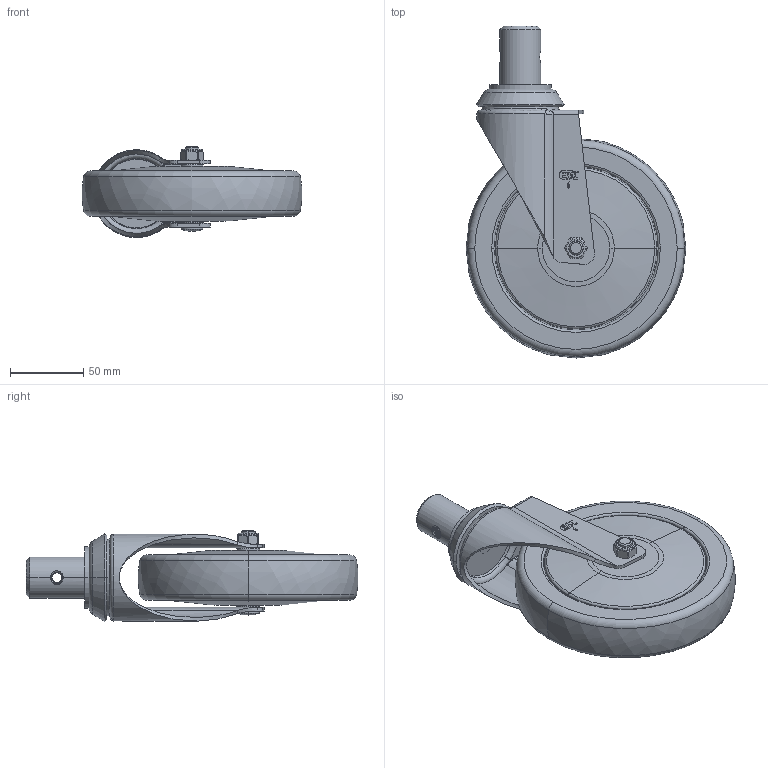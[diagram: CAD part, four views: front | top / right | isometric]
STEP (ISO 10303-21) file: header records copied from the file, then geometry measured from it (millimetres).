
FILE_DESCRIPTION((''),'2;1');
FILE_NAME('57256-576-77_ASM','2021-01-05T',('lenovo'),(''),'PRO/ENGINEER BY PARAMETRIC TECHNOLOGY CORPORATION, 2010280','PRO/ENGINEER BY PARAMETRIC TECHNOLOGY CORPORATION, 2010280','');
FILE_SCHEMA(('CONFIG_CONTROL_DESIGN'));
Length unit declared in the file: millimetre
Products named in the file (7): 5710-055; 5726-311; 5720-211; 576-77; 5710-020; 5710-031; 57256-576-77_ASM
Assembly tree (6 placements, depth 2):
  57256-576-77_ASM
    5710-055
    5726-311
    5720-211
    576-77
    5710-020
    5710-031
Bounding box: 149.8 x 226.4 x 62.25 mm (x, y, z)
Volume: 656276.5 mm3; surface area: 98810.8 mm2
Topology: 6 solids, 6 shells, 352 faces, 888 edges, 555 vertices
Faces by surface type: plane 124, cylinder 94, bspline 71, cone 34, torus 27, sphere 2
Entity records: 17908 total; most frequent: CARTESIAN_POINT 9843, ORIENTED_EDGE 1760, DIRECTION 1473, EDGE_CURVE 880, VERTEX_POINT 553, AXIS2_PLACEMENT_3D 528, VECTOR 417, LINE 417
